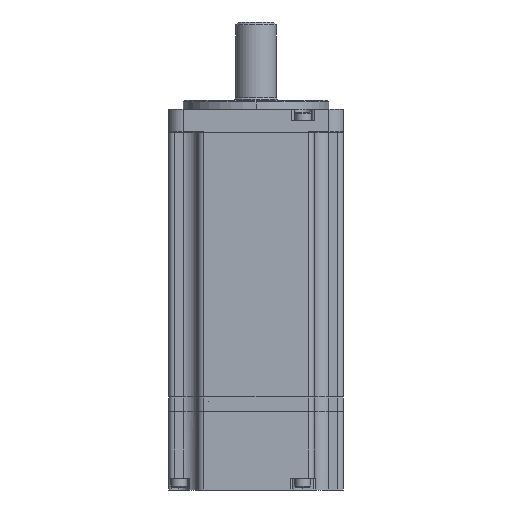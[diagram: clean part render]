
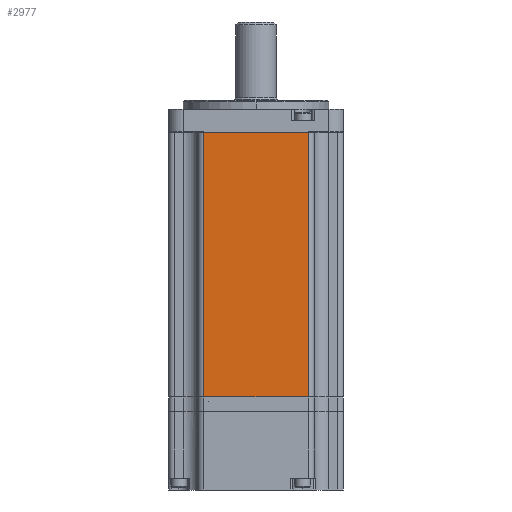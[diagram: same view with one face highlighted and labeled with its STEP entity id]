
A CAD part, front view. The second image highlights one B-rep face of the part: STEP entity #2977.
In plain terms, the highlighted planar face has unit normal (0, -1, 0).
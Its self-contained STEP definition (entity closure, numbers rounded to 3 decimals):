
#2977 = ADVANCED_FACE ( 'NONE', ( #37871 ), #6536, .F. ) ;
#6533 = DIRECTION ( 'NONE',  ( 0., 0., 1. ) ) ;
#6534 = DIRECTION ( 'NONE',  ( 0., 1., 0. ) ) ;
#6536 = PLANE ( 'NONE',  #35042 ) ;
#6540 = CARTESIAN_POINT ( 'NONE',  ( -20., -30.1, 91. ) ) ;
#15203 = ORIENTED_EDGE ( 'NONE', *, *, #16504, .T. ) ;
#15204 = ORIENTED_EDGE ( 'NONE', *, *, #16525, .T. ) ;
#15205 = ORIENTED_EDGE ( 'NONE', *, *, #16489, .F. ) ;
#15206 = ORIENTED_EDGE ( 'NONE', *, *, #16526, .T. ) ;
#16489 = EDGE_CURVE ( 'NONE', #46471, #46467, #18616, .T. ) ;
#16504 = EDGE_CURVE ( 'NONE', #46444, #46492, #18636, .T. ) ;
#16525 = EDGE_CURVE ( 'NONE', #46492, #46467, #18668, .T. ) ;
#16526 = EDGE_CURVE ( 'NONE', #46471, #46444, #18670, .T. ) ;
#18616 = LINE ( 'NONE', #21702, #18618 ) ;
#18618 = VECTOR ( 'NONE', #21705, 1000. ) ;
#18636 = LINE ( 'NONE', #21799, #18638 ) ;
#18638 = VECTOR ( 'NONE', #21789, 1000. ) ;
#18668 = LINE ( 'NONE', #21918, #18671 ) ;
#18670 = LINE ( 'NONE', #21922, #18673 ) ;
#18671 = VECTOR ( 'NONE', #21920, 1000. ) ;
#18673 = VECTOR ( 'NONE', #21924, 1000. ) ;
#21702 = CARTESIAN_POINT ( 'NONE',  ( -20., -30.1, 91. ) ) ;
#21705 = DIRECTION ( 'NONE',  ( 1., 0., 0. ) ) ;
#21789 = DIRECTION ( 'NONE',  ( 1., 0., 0. ) ) ;
#21799 = CARTESIAN_POINT ( 'NONE',  ( -20., -30.1, 0. ) ) ;
#21918 = CARTESIAN_POINT ( 'NONE',  ( 18., -30.1, 91. ) ) ;
#21920 = DIRECTION ( 'NONE',  ( 0., 0., 1. ) ) ;
#21922 = CARTESIAN_POINT ( 'NONE',  ( -18., -30.1, 91. ) ) ;
#21924 = DIRECTION ( 'NONE',  ( 0., 0., -1. ) ) ;
#32057 = EDGE_LOOP ( 'NONE', ( #15203, #15204, #15205, #15206 ) ) ;
#35042 = AXIS2_PLACEMENT_3D ( 'NONE', #6540, #6534, #6533 ) ;
#37871 = FACE_OUTER_BOUND ( 'NONE', #32057, .T. ) ;
#44715 = CARTESIAN_POINT ( 'NONE',  ( -18., -30.1, 0. ) ) ;
#44738 = CARTESIAN_POINT ( 'NONE',  ( 18., -30.1, 91. ) ) ;
#44742 = CARTESIAN_POINT ( 'NONE',  ( -18., -30.1, 91. ) ) ;
#44763 = CARTESIAN_POINT ( 'NONE',  ( 18., -30.1, 0. ) ) ;
#46444 = VERTEX_POINT ( 'NONE', #44715 ) ;
#46467 = VERTEX_POINT ( 'NONE', #44738 ) ;
#46471 = VERTEX_POINT ( 'NONE', #44742 ) ;
#46492 = VERTEX_POINT ( 'NONE', #44763 ) ;
